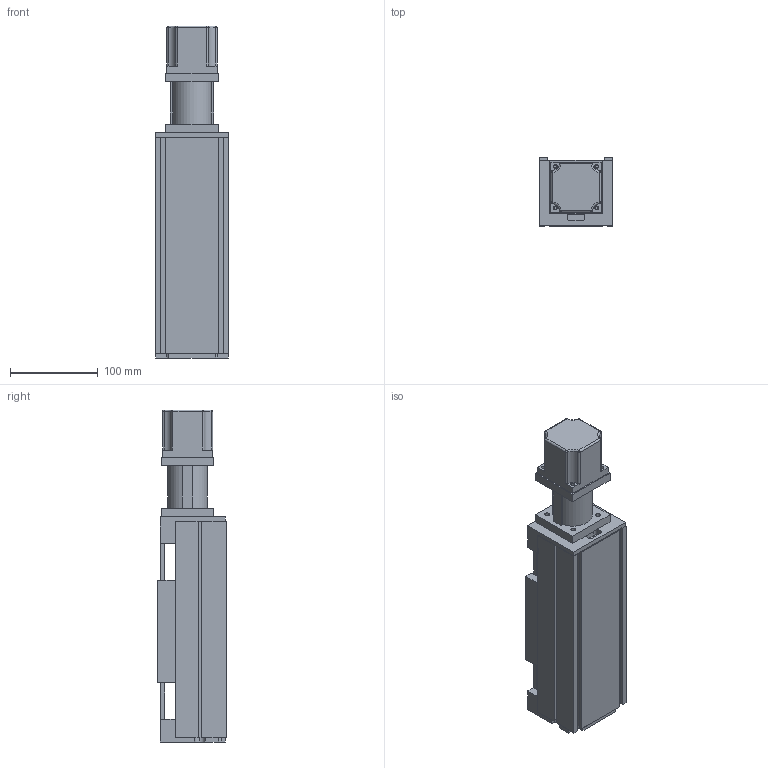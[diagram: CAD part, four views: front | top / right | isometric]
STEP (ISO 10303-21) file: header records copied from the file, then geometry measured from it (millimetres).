
FILE_DESCRIPTION (( 'STEP AP203' ), '1' );
FILE_NAME ('MSX84C-设计样例-标准面板.STEP', '2013-11-02T03:21:29', ( '微软用户' ), ( '微软中国' ), 'SwSTEP 2.0', 'SolidWorks 2010', '' );
FILE_SCHEMA (( 'CONFIG_CONTROL_DESIGN' ));
Length unit declared in the file: millimetre
Products named in the file (1): MSX84C-设计样例-标准面板
Bounding box: 84 x 78 x 377.5 mm (x, y, z)
Volume: 1257481.8 mm3; surface area: 271381.5 mm2
Topology: 3 solids, 4 shells, 281 faces, 734 edges, 458 vertices
Faces by surface type: plane 170, cylinder 83, cone 16, sphere 8, torus 4
Entity records: 8497 total; most frequent: DIRECTION 1456, CARTESIAN_POINT 1454, ORIENTED_EDGE 1428, EDGE_CURVE 714, VECTOR 536, LINE 536, AXIS2_PLACEMENT_3D 460, VERTEX_POINT 458
